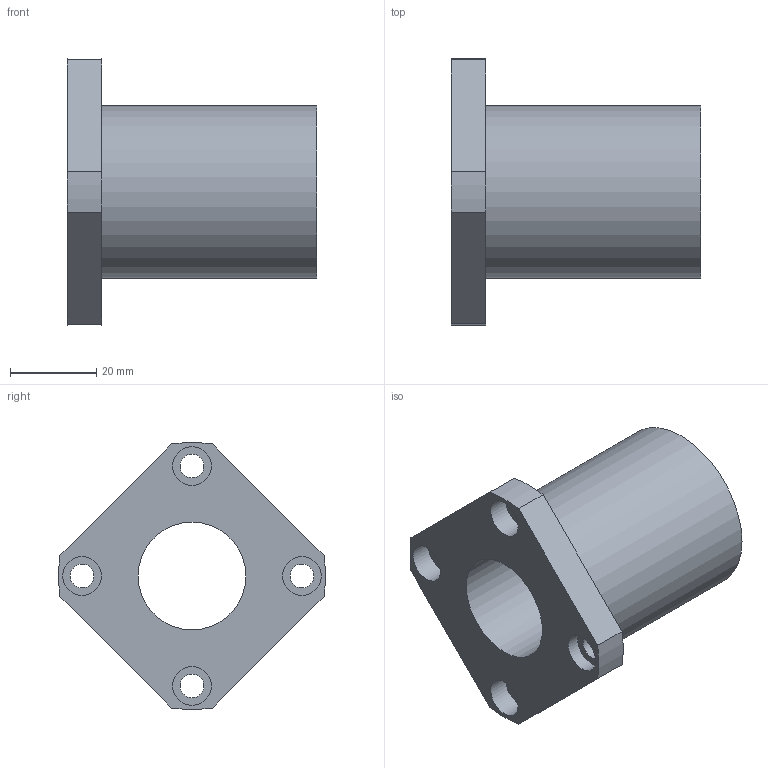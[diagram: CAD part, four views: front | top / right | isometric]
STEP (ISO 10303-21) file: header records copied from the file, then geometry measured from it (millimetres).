
FILE_DESCRIPTION( ( 'STEP AP203' ), '1' );
FILE_NAME( 'p:/temp/worker_7/temp/exporttempdir_3240_1495_DGqva/format_0/LMEK25UU.stp', '2020-05-07T05:47:00', ( 'License CC BY-ND 4.0' ), ( 'CADENAS' ), ' ', 'PARTsolutions', ' ' );
FILE_SCHEMA( ( 'CONFIG_CONTROL_DESIGN' ) );
Length unit declared in the file: millimetre
Products named in the file (1): _LMEK25UU
Bounding box: 58 x 61.92 x 61.92 mm (x, y, z)
Volume: 52228.4 mm3; surface area: 16738.3 mm2
Topology: 1 solids, 1 shells, 25 faces, 55 edges, 37 vertices
Faces by surface type: cylinder 14, plane 11
Full cylindrical faces by diameter (mm): 5.5 x4, 9 x4, 25 x1, 40 x1
Entity records: 710 total; most frequent: DIRECTION 124, CARTESIAN_POINT 106, ORIENTED_EDGE 88, AXIS2_PLACEMENT_3D 54, EDGE_LOOP 50, EDGE_CURVE 44, VERTEX_POINT 36, FACE_OUTER_BOUND 35
